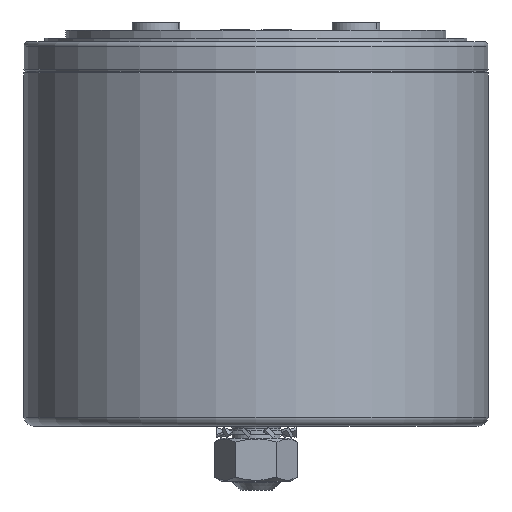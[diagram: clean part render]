
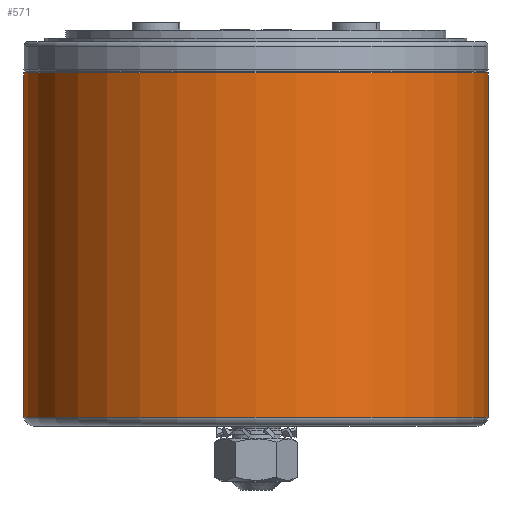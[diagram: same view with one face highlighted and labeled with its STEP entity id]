
A CAD part, front view. The second image highlights one B-rep face of the part: STEP entity #571.
In plain terms, the highlighted cylindrical face has radius 58 mm (diameter 116 mm), a partial arc.
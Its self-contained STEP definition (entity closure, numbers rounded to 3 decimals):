
#199 = LINE ( 'NONE', #6176, #7434 ) ;
#232 = CARTESIAN_POINT ( 'NONE',  ( 42.5, 0., -18.854 ) ) ;
#447 = DIRECTION ( 'NONE',  ( -1., 0., 0. ) ) ;
#571 = ADVANCED_FACE ( 'NONE', ( #813 ), #1006, .T. ) ;
#788 = DIRECTION ( 'NONE',  ( 0., 0., -1. ) ) ;
#813 = FACE_OUTER_BOUND ( 'NONE', #1888, .T. ) ;
#912 = CARTESIAN_POINT ( 'NONE',  ( -15.5, 0., -18.854 ) ) ;
#1006 = CYLINDRICAL_SURFACE ( 'NONE', #7407, 58. ) ;
#1069 = ORIENTED_EDGE ( 'NONE', *, *, #3401, .F. ) ;
#1119 = EDGE_CURVE ( 'NONE', #5671, #1161, #199, .T. ) ;
#1161 = VERTEX_POINT ( 'NONE', #1428 ) ;
#1186 = DIRECTION ( 'NONE',  ( 0., 0., -1. ) ) ;
#1428 = CARTESIAN_POINT ( 'NONE',  ( -73.5, 0., -18.854 ) ) ;
#1707 = DIRECTION ( 'NONE',  ( 0., 0., -1. ) ) ;
#1888 = EDGE_LOOP ( 'NONE', ( #1069, #6908, #6868, #2235 ) ) ;
#1906 = DIRECTION ( 'NONE',  ( -1., 0., 0. ) ) ;
#2010 = EDGE_CURVE ( 'NONE', #6181, #5671, #3794, .T. ) ;
#2235 = ORIENTED_EDGE ( 'NONE', *, *, #8367, .F. ) ;
#2286 = DIRECTION ( 'NONE',  ( -1., 0., 0. ) ) ;
#2526 = CARTESIAN_POINT ( 'NONE',  ( 42.5, 0., 67.217 ) ) ;
#3383 = AXIS2_PLACEMENT_3D ( 'NONE', #7959, #1186, #447 ) ;
#3401 = EDGE_CURVE ( 'NONE', #6181, #4998, #8370, .T. ) ;
#3779 = CARTESIAN_POINT ( 'NONE',  ( 42.5, 0., 151.967 ) ) ;
#3794 = CIRCLE ( 'NONE', #3383, 58. ) ;
#4998 = VERTEX_POINT ( 'NONE', #232 ) ;
#5671 = VERTEX_POINT ( 'NONE', #5761 ) ;
#5761 = CARTESIAN_POINT ( 'NONE',  ( -73.5, 0., 67.217 ) ) ;
#5940 = DIRECTION ( 'NONE',  ( 0., 0., -1. ) ) ;
#6176 = CARTESIAN_POINT ( 'NONE',  ( -73.5, 0., 151.967 ) ) ;
#6181 = VERTEX_POINT ( 'NONE', #2526 ) ;
#6362 = DIRECTION ( 'NONE',  ( 0., 0., -1. ) ) ;
#6569 = CARTESIAN_POINT ( 'NONE',  ( -15.5, 0., 151.967 ) ) ;
#6868 = ORIENTED_EDGE ( 'NONE', *, *, #1119, .T. ) ;
#6908 = ORIENTED_EDGE ( 'NONE', *, *, #2010, .T. ) ;
#7398 = AXIS2_PLACEMENT_3D ( 'NONE', #912, #6362, #2286 ) ;
#7407 = AXIS2_PLACEMENT_3D ( 'NONE', #6569, #5940, #1906 ) ;
#7434 = VECTOR ( 'NONE', #788, 1000. ) ;
#7722 = VECTOR ( 'NONE', #1707, 1000. ) ;
#7959 = CARTESIAN_POINT ( 'NONE',  ( -15.5, 0., 67.217 ) ) ;
#8367 = EDGE_CURVE ( 'NONE', #4998, #1161, #8817, .T. ) ;
#8370 = LINE ( 'NONE', #3779, #7722 ) ;
#8817 = CIRCLE ( 'NONE', #7398, 58. ) ;
